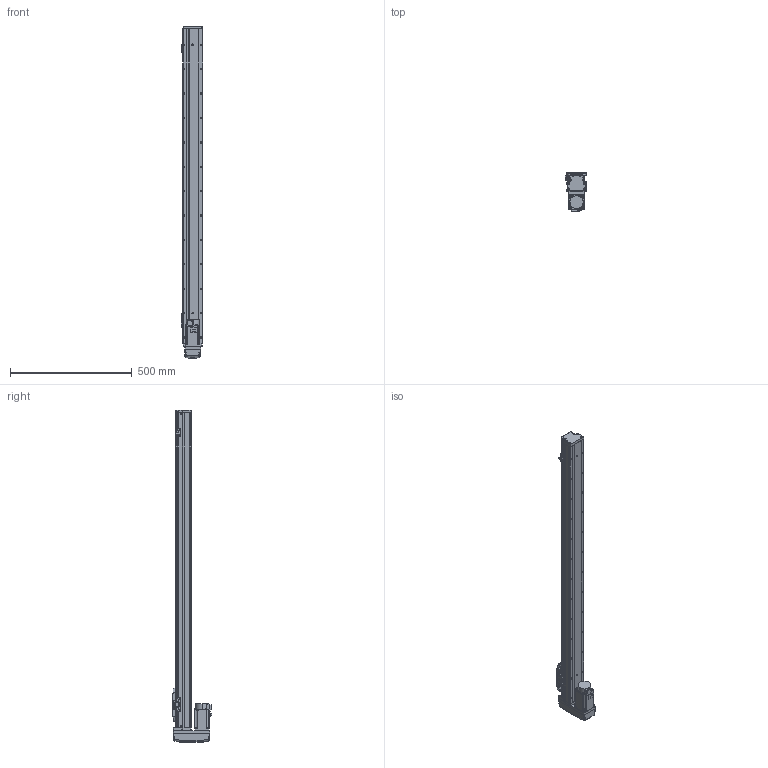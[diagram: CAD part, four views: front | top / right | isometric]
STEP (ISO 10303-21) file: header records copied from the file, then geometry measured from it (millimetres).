
FILE_DESCRIPTION (( 'STEP AP203' ), '1' );
FILE_NAME ('GTH8-1100-BM-M20-C4.step', '2022-09-23T01:04:09', ( '微软用户' ), ( '微软中国' ), 'SwSTEP 2.0', 'SolidWorks 2020', '' );
FILE_SCHEMA (( 'CONFIG_CONTROL_DESIGN' ));
Length unit declared in the file: millimetre
Products named in the file (18): GTH80-001_1100; GBT 70.1-M3℅6; hg-kn43j_-s100_; GTH80-003; GBT 70.1-M4×16; CTHA86-015-1_CTHA86-015-2; GTH80-004; GTH80-028; CTHA86-033_M40B; GTH80-006; GTH50-024; GTH8-1100-BM-M20-C4; GTH80-013; GTH50-023; GBT 70.3-M3℅6; GBT96.1-2002 3×0.8; GTH80-022; BTH-M3X5X6
Assembly tree (57 placements, depth 2):
  GTH8-1100-BM-M20-C4
    GTH80-001_1100
    GTH80-003
    GTH80-004
    GTH80-006
    GTH80-013
    GBT 70.3-M3℅6  x4
    GTH80-022
    GBT 70.1-M3℅6  x14
    GBT 70.1-M4×16  x8
    GTH80-028  x2
    GTH50-024  x3
    GTH50-023  x3
    GBT96.1-2002 3×0.8  x6
    BTH-M3X5X6  x8
    hg-kn43j_-s100_
    CTHA86-015-1_CTHA86-015-2
    CTHA86-033_M40B
Bounding box: 86.9 x 160.3 x 1361 mm (x, y, z)
Volume: 6572724 mm3; surface area: 630686.9 mm2
Topology: 59 solids, 59 shells, 2260 faces, 5235 edges, 3211 vertices
Faces by surface type: plane 1187, cylinder 631, cone 260, torus 166, bspline 8, sphere 8
Entity records: 41662 total; most frequent: CARTESIAN_POINT 7313, DIRECTION 6789, ORIENTED_EDGE 6288, EDGE_CURVE 3144, AXIS2_PLACEMENT_3D 2385, VECTOR 2019, LINE 2019, VERTEX_POINT 1986
